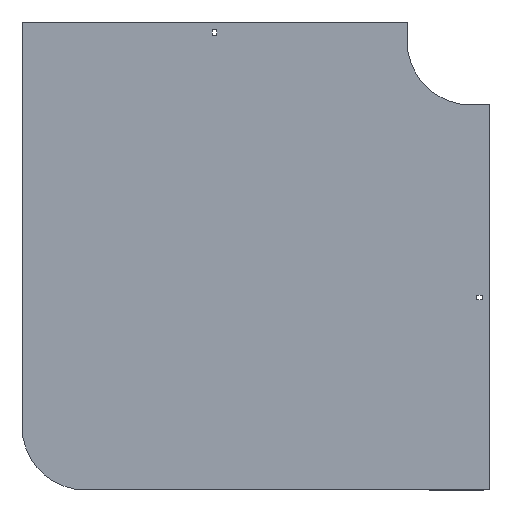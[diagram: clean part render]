
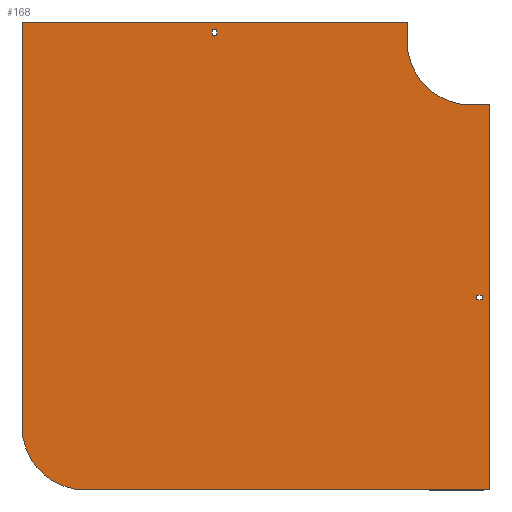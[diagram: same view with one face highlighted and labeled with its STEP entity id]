
A CAD part, front view. The second image highlights one B-rep face of the part: STEP entity #168.
In plain terms, the highlighted planar face has unit normal (0, -1, 0).
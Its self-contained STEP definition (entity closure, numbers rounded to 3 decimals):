
#22 = ORIENTED_EDGE ( 'NONE', *, *, #957, .F. ) ;
#29 = CARTESIAN_POINT ( 'NONE',  ( -100., 0., 0. ) ) ;
#54 = CARTESIAN_POINT ( 'NONE',  ( 18., 0., -398.75 ) ) ;
#71 = VERTEX_POINT ( 'NONE', #29 ) ;
#80 = LINE ( 'NONE', #720, #422 ) ;
#99 = DIRECTION ( 'NONE',  ( 0., 0., -1. ) ) ;
#128 = VECTOR ( 'NONE', #577, 1000. ) ;
#135 = VERTEX_POINT ( 'NONE', #800 ) ;
#167 = ORIENTED_EDGE ( 'NONE', *, *, #1107, .F. ) ;
#168 = ADVANCED_FACE ( 'NONE', ( #288, #1309, #282 ), #1189, .T. ) ;
#174 = ORIENTED_EDGE ( 'NONE', *, *, #689, .F. ) ;
#175 = DIRECTION ( 'NONE',  ( -1., 0., 0. ) ) ;
#176 = EDGE_CURVE ( 'NONE', #934, #512, #1931, .T. ) ;
#212 = ORIENTED_EDGE ( 'NONE', *, *, #853, .F. ) ;
#216 = CARTESIAN_POINT ( 'NONE',  ( -398.75, 0., 18. ) ) ;
#246 = LINE ( 'NONE', #825, #383 ) ;
#259 = VERTEX_POINT ( 'NONE', #454 ) ;
#261 = CARTESIAN_POINT ( 'NONE',  ( 30., 0., -704. ) ) ;
#266 = LINE ( 'NONE', #1913, #1453 ) ;
#273 = ORIENTED_EDGE ( 'NONE', *, *, #291, .F. ) ;
#282 = FACE_BOUND ( 'NONE', #994, .T. ) ;
#288 = FACE_BOUND ( 'NONE', #1792, .T. ) ;
#291 = EDGE_CURVE ( 'NONE', #1442, #934, #336, .T. ) ;
#329 = CIRCLE ( 'NONE', #1932, 100. ) ;
#336 = LINE ( 'NONE', #930, #1550 ) ;
#383 = VECTOR ( 'NONE', #393, 1000. ) ;
#384 = VECTOR ( 'NONE', #1917, 1000. ) ;
#391 = AXIS2_PLACEMENT_3D ( 'NONE', #724, #1209, #1805 ) ;
#393 = DIRECTION ( 'NONE',  ( 1., 0., 0. ) ) ;
#410 = LINE ( 'NONE', #1004, #1702 ) ;
#422 = VECTOR ( 'NONE', #1576, 1000. ) ;
#426 = CARTESIAN_POINT ( 'NONE',  ( -604., 0., -704. ) ) ;
#430 = VERTEX_POINT ( 'NONE', #54 ) ;
#438 = CARTESIAN_POINT ( 'NONE',  ( -604., 0., -604. ) ) ;
#440 = CARTESIAN_POINT ( 'NONE',  ( 18., 0., -405.25 ) ) ;
#454 = CARTESIAN_POINT ( 'NONE',  ( -398.75, 0., 9. ) ) ;
#507 = DIRECTION ( 'NONE',  ( 0., 0., -1. ) ) ;
#509 = LINE ( 'NONE', #1427, #572 ) ;
#512 = VERTEX_POINT ( 'NONE', #881 ) ;
#557 = EDGE_LOOP ( 'NONE', ( #1489, #22, #1180, #273, #619, #1677, #167, #1833 ) ) ;
#562 = ORIENTED_EDGE ( 'NONE', *, *, #739, .T. ) ;
#572 = VECTOR ( 'NONE', #1742, 1000. ) ;
#577 = DIRECTION ( 'NONE',  ( 0., 0., 1. ) ) ;
#580 = EDGE_CURVE ( 'NONE', #259, #1412, #509, .T. ) ;
#591 = EDGE_CURVE ( 'NONE', #1229, #71, #956, .T. ) ;
#619 = ORIENTED_EDGE ( 'NONE', *, *, #1261, .F. ) ;
#620 = LINE ( 'NONE', #1526, #1455 ) ;
#658 = DIRECTION ( 'NONE',  ( 0., -1., 0. ) ) ;
#679 = CARTESIAN_POINT ( 'NONE',  ( 30., 0., -100. ) ) ;
#689 = EDGE_CURVE ( 'NONE', #914, #1796, #835, .T. ) ;
#696 = LINE ( 'NONE', #679, #1290 ) ;
#720 = CARTESIAN_POINT ( 'NONE',  ( -405.25, 0., 9. ) ) ;
#724 = CARTESIAN_POINT ( 'NONE',  ( 0., 0., 0. ) ) ;
#739 = EDGE_CURVE ( 'NONE', #1520, #1568, #246, .T. ) ;
#800 = CARTESIAN_POINT ( 'NONE',  ( 18., 0., -405.25 ) ) ;
#825 = CARTESIAN_POINT ( 'NONE',  ( -405.25, 0., 18. ) ) ;
#835 = LINE ( 'NONE', #1266, #1008 ) ;
#853 = EDGE_CURVE ( 'NONE', #430, #914, #1454, .T. ) ;
#859 = DIRECTION ( 'NONE',  ( 0., 1., 0. ) ) ;
#862 = DIRECTION ( 'NONE',  ( 1., 0., 0. ) ) ;
#865 = DIRECTION ( 'NONE',  ( 0., 0., 1. ) ) ;
#867 = EDGE_CURVE ( 'NONE', #1200, #1229, #410, .T. ) ;
#881 = CARTESIAN_POINT ( 'NONE',  ( -704., 0., -604. ) ) ;
#914 = VERTEX_POINT ( 'NONE', #1001 ) ;
#920 = AXIS2_PLACEMENT_3D ( 'NONE', #438, #859, #1015 ) ;
#923 = CARTESIAN_POINT ( 'NONE',  ( -100., 0., 30. ) ) ;
#930 = CARTESIAN_POINT ( 'NONE',  ( 30., 0., -704. ) ) ;
#934 = VERTEX_POINT ( 'NONE', #426 ) ;
#941 = ORIENTED_EDGE ( 'NONE', *, *, #1649, .T. ) ;
#956 = LINE ( 'NONE', #1566, #1204 ) ;
#957 = EDGE_CURVE ( 'NONE', #512, #1200, #266, .T. ) ;
#973 = DIRECTION ( 'NONE',  ( 1., 0., 0. ) ) ;
#976 = VECTOR ( 'NONE', #973, 1000. ) ;
#994 = EDGE_LOOP ( 'NONE', ( #1074, #1331, #174, #212 ) ) ;
#1001 = CARTESIAN_POINT ( 'NONE',  ( 9., 0., -398.75 ) ) ;
#1004 = CARTESIAN_POINT ( 'NONE',  ( -704., 0., 30. ) ) ;
#1008 = VECTOR ( 'NONE', #99, 1000. ) ;
#1015 = DIRECTION ( 'NONE',  ( 0., 0., 1. ) ) ;
#1025 = LINE ( 'NONE', #1347, #384 ) ;
#1065 = ORIENTED_EDGE ( 'NONE', *, *, #1509, .T. ) ;
#1067 = ORIENTED_EDGE ( 'NONE', *, *, #580, .T. ) ;
#1074 = ORIENTED_EDGE ( 'NONE', *, *, #1445, .F. ) ;
#1107 = EDGE_CURVE ( 'NONE', #71, #1292, #329, .T. ) ;
#1180 = ORIENTED_EDGE ( 'NONE', *, *, #176, .F. ) ;
#1189 = PLANE ( 'NONE',  #391 ) ;
#1200 = VERTEX_POINT ( 'NONE', #1246 ) ;
#1204 = VECTOR ( 'NONE', #1870, 1000. ) ;
#1209 = DIRECTION ( 'NONE',  ( 0., -1., 0. ) ) ;
#1224 = DIRECTION ( 'NONE',  ( 1., 0., 0. ) ) ;
#1229 = VERTEX_POINT ( 'NONE', #923 ) ;
#1232 = EDGE_CURVE ( 'NONE', #1796, #135, #620, .T. ) ;
#1246 = CARTESIAN_POINT ( 'NONE',  ( -704., 0., 30. ) ) ;
#1261 = EDGE_CURVE ( 'NONE', #1764, #1442, #696, .T. ) ;
#1266 = CARTESIAN_POINT ( 'NONE',  ( 9., 0., -405.25 ) ) ;
#1280 = CARTESIAN_POINT ( 'NONE',  ( 0., 0., -100. ) ) ;
#1290 = VECTOR ( 'NONE', #1422, 1000. ) ;
#1292 = VERTEX_POINT ( 'NONE', #1740 ) ;
#1301 = CARTESIAN_POINT ( 'NONE',  ( 9., 0., -398.75 ) ) ;
#1309 = FACE_OUTER_BOUND ( 'NONE', #557, .T. ) ;
#1312 = LINE ( 'NONE', #440, #128 ) ;
#1324 = EDGE_CURVE ( 'NONE', #1292, #1764, #1875, .T. ) ;
#1331 = ORIENTED_EDGE ( 'NONE', *, *, #1232, .F. ) ;
#1347 = CARTESIAN_POINT ( 'NONE',  ( -398.75, 0., 9. ) ) ;
#1355 = CARTESIAN_POINT ( 'NONE',  ( 9., 0., -405.25 ) ) ;
#1358 = CARTESIAN_POINT ( 'NONE',  ( 0., 0., 0. ) ) ;
#1389 = VECTOR ( 'NONE', #1909, 1000. ) ;
#1412 = VERTEX_POINT ( 'NONE', #1787 ) ;
#1422 = DIRECTION ( 'NONE',  ( 0., 0., -1. ) ) ;
#1427 = CARTESIAN_POINT ( 'NONE',  ( -405.25, 0., 9. ) ) ;
#1442 = VERTEX_POINT ( 'NONE', #261 ) ;
#1445 = EDGE_CURVE ( 'NONE', #135, #430, #1312, .T. ) ;
#1453 = VECTOR ( 'NONE', #865, 1000. ) ;
#1454 = LINE ( 'NONE', #1301, #1389 ) ;
#1455 = VECTOR ( 'NONE', #1224, 1000. ) ;
#1489 = ORIENTED_EDGE ( 'NONE', *, *, #867, .F. ) ;
#1509 = EDGE_CURVE ( 'NONE', #1568, #259, #1025, .T. ) ;
#1520 = VERTEX_POINT ( 'NONE', #1927 ) ;
#1526 = CARTESIAN_POINT ( 'NONE',  ( 9., 0., -405.25 ) ) ;
#1550 = VECTOR ( 'NONE', #175, 1000. ) ;
#1566 = CARTESIAN_POINT ( 'NONE',  ( -100., 0., 30. ) ) ;
#1568 = VERTEX_POINT ( 'NONE', #216 ) ;
#1576 = DIRECTION ( 'NONE',  ( 0., 0., 1. ) ) ;
#1649 = EDGE_CURVE ( 'NONE', #1412, #1520, #80, .T. ) ;
#1677 = ORIENTED_EDGE ( 'NONE', *, *, #1324, .F. ) ;
#1702 = VECTOR ( 'NONE', #862, 1000. ) ;
#1740 = CARTESIAN_POINT ( 'NONE',  ( 0., 0., -100. ) ) ;
#1742 = DIRECTION ( 'NONE',  ( -1., 0., 0. ) ) ;
#1764 = VERTEX_POINT ( 'NONE', #1901 ) ;
#1787 = CARTESIAN_POINT ( 'NONE',  ( -405.25, 0., 9. ) ) ;
#1792 = EDGE_LOOP ( 'NONE', ( #941, #562, #1065, #1067 ) ) ;
#1796 = VERTEX_POINT ( 'NONE', #1355 ) ;
#1805 = DIRECTION ( 'NONE',  ( 0., 0., -1. ) ) ;
#1833 = ORIENTED_EDGE ( 'NONE', *, *, #591, .F. ) ;
#1870 = DIRECTION ( 'NONE',  ( 0., 0., -1. ) ) ;
#1875 = LINE ( 'NONE', #1280, #976 ) ;
#1901 = CARTESIAN_POINT ( 'NONE',  ( 30., 0., -100. ) ) ;
#1909 = DIRECTION ( 'NONE',  ( -1., 0., 0. ) ) ;
#1913 = CARTESIAN_POINT ( 'NONE',  ( -704., 0., -604. ) ) ;
#1917 = DIRECTION ( 'NONE',  ( 0., 0., -1. ) ) ;
#1927 = CARTESIAN_POINT ( 'NONE',  ( -405.25, 0., 18. ) ) ;
#1931 = CIRCLE ( 'NONE', #920, 100. ) ;
#1932 = AXIS2_PLACEMENT_3D ( 'NONE', #1358, #658, #507 ) ;
